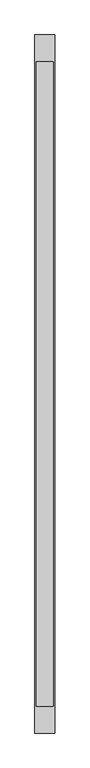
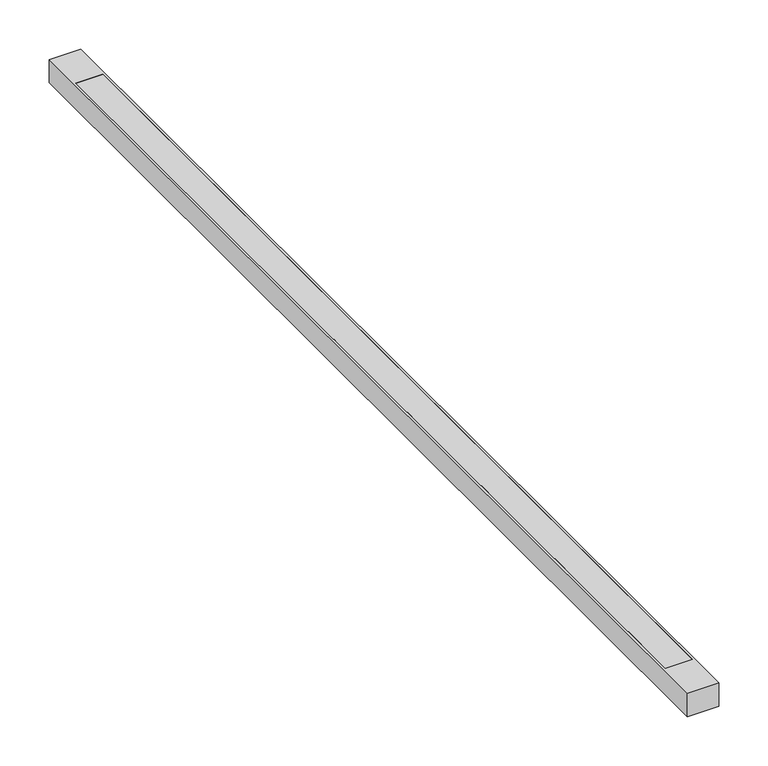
"""IFC4 building model written with IfcOpenShell, lengths in millimetres: light fixture geometry, Zumtobel SUI TID : SUI TID L1300 2200-840 300MA."""

import ifcopenshell
import ifcopenshell.guid

model = None  # the IFC model being written
_history = None  # IfcOwnerHistory: only IFC2X3 demands one
_inside = {}  # id of a spatial element -> (the spatial element, [elements in it])
_under = {}  # id of a project, library or spatial element -> (it, [spatial elements below it])
_declared = {}  # id of a project -> (the project, [libraries it declares])
_typed = {}  # id of a type object -> (the type object, [elements of that type])
_made_of = {}  # id of a material, layer set ... -> (it, [elements and type objects made of it])


def new_model(schema):
    """Start an empty IFC model of exactly this schema.

    Asked for "IFC4X3", IfcOpenShell would pick the latest addendum, in which some entities
    have other attributes; the version numbers below select the first issue.
    IFC2X3 requires an IfcOwnerHistory on every rooted entity: one is made here for all.
    """
    global model, _history
    if schema == "IFC4X3":
        model = ifcopenshell.file(schema_version=(4, 3, 0, 0))
    else:
        model = ifcopenshell.file(schema=schema)
    _inside.clear()
    _under.clear()
    _declared.clear()
    _typed.clear()
    _made_of.clear()
    _history = None
    if model.schema == "IFC2X3":
        org = make("IfcOrganization", Name="unknown")
        user = make(
            "IfcPersonAndOrganization",
            ThePerson=make("IfcPerson", FamilyName="unknown"),
            TheOrganization=org,
        )
        app = make(
            "IfcApplication",
            ApplicationDeveloper=org,
            Version="unknown",
            ApplicationFullName="unknown",
            ApplicationIdentifier="unknown",
        )
        _history = make(
            "IfcOwnerHistory",
            OwningUser=user,
            OwningApplication=app,
            ChangeAction="ADDED",
            CreationDate=0,
        )
    return model


def make(cls, **values):
    """One entity of the class cls with the attributes given. An attribute that is None is left unset."""
    return model.create_entity(
        cls, **{name: value for name, value in values.items() if value is not None}
    )


def rooted(cls, **values):
    """An entity with a GlobalId (a new one), such as an element, a storey or a relation."""
    return make(cls, GlobalId=ifcopenshell.guid.new(), OwnerHistory=_history, **values)


def si_unit(unit_type, name, prefix=None):
    """IfcSIUnit, for example si_unit("LENGTHUNIT", "METRE", prefix="MILLI")."""
    return make("IfcSIUnit", UnitType=unit_type, Prefix=prefix, Name=name)


def assignment(units):
    """IfcUnitAssignment: the units of a project."""
    return None if units is None else make("IfcUnitAssignment", Units=units)


def point(xyz):
    """IfcCartesianPoint."""
    return None if xyz is None else make("IfcCartesianPoint", Coordinates=xyz)


def direction(xyz):
    """IfcDirection."""
    return None if xyz is None else make("IfcDirection", DirectionRatios=xyz)


def frame(location, z_axis=None, x_axis=None):
    """IfcAxis2Placement3D, a coordinate frame: its origin and axes. An axis left out is left unset."""
    return make(
        "IfcAxis2Placement3D",
        Location=point(location),
        Axis=direction(z_axis),
        RefDirection=direction(x_axis),
    )


def origin():
    """The frame at (0, 0, 0) with its axes left unset."""
    return frame((0.0, 0.0, 0.0))


def place(relative_to, where):
    """IfcLocalPlacement: puts the frame where relative to a parent placement (None: the world)."""
    return make(
        "IfcLocalPlacement", PlacementRelTo=relative_to, RelativePlacement=where
    )


def context(
    kind, dimensions, precision=None, world=None, true_north=None, identifier=None
):
    """IfcGeometricRepresentationContext, for example the 3D "Model" context."""
    return make(
        "IfcGeometricRepresentationContext",
        ContextIdentifier=identifier,
        ContextType=kind,
        CoordinateSpaceDimension=dimensions,
        Precision=precision,
        WorldCoordinateSystem=world,
        TrueNorth=true_north,
    )


def project(units=None, contexts=None):
    """IfcProject with its units and contexts."""
    return rooted(
        "IfcProject",
        Name="project",
        RepresentationContexts=contexts,
        UnitsInContext=assignment(units),
    )


def spatial(cls, under=None, at=None, **own):
    """A site, building, storey or space (cls), placed at a placement, below another one or the project."""
    s = rooted(cls, ObjectPlacement=at, **own)
    if under is not None:
        _under.setdefault(under.id(), (under, []))[1].append(s)
    return s


def polyline(points):
    """IfcPolyline through the points."""
    return make("IfcPolyline", Points=[point(p) for p in points])


def outline(outer, holes=None, kind="AREA"):
    """IfcArbitraryClosedProfileDef: a profile drawn as a closed curve; with holes, ...WithVoids."""
    if holes is None:
        return make("IfcArbitraryClosedProfileDef", ProfileType=kind, OuterCurve=outer)
    return make(
        "IfcArbitraryProfileDefWithVoids",
        ProfileType=kind,
        OuterCurve=outer,
        InnerCurves=holes,
    )


def extrude(swept, where, along, depth):
    """IfcExtrudedAreaSolid: the profile swept, set in the frame where, extruded along a direction by depth."""
    return make(
        "IfcExtrudedAreaSolid",
        SweptArea=swept,
        Position=where,
        ExtrudedDirection=direction(along),
        Depth=depth,
    )


def faces_of(points, faces, orient=None, outer=None):
    """IfcFace entities. A face is a list of loops; a loop is a list of indices into points, from 0.

    orient and outer hold one flag for each loop. By default every Orientation is true, the
    first loop of a face is its IfcFaceOuterBound and the others are IfcFaceBound.
    """
    made = []
    for i, loops in enumerate(faces):
        bounds = []
        for j, loop in enumerate(loops):
            is_outer = j == 0 if outer is None else outer[i][j]
            bounds.append(
                make(
                    "IfcFaceOuterBound" if is_outer else "IfcFaceBound",
                    Bound=make("IfcPolyLoop", Polygon=[points[k] for k in loop]),
                    Orientation=True if orient is None else orient[i][j],
                )
            )
        made.append(make("IfcFace", Bounds=bounds))
    return made


def faceted_brep(points, faces, orient=None, outer=None, voids=None):
    """IfcFacetedBrep: a solid bounded by flat faces; with voids (closed shells), ...WithVoids."""
    shared = [point(p) for p in points]
    hull = make("IfcClosedShell", CfsFaces=faces_of(shared, faces, orient, outer))
    if voids is None:
        return make("IfcFacetedBrep", Outer=hull)
    return make(
        "IfcFacetedBrepWithVoids",
        Outer=hull,
        Voids=[
            make(cls, CfsFaces=faces_of(shared, fs, o, b)) for cls, fs, o, b in voids
        ],
    )


def shape(context_of_items, identifier, shape_type, items):
    """IfcShapeRepresentation: the items that make up one representation, for example the "Body"."""
    return make(
        "IfcShapeRepresentation",
        ContextOfItems=context_of_items,
        RepresentationIdentifier=identifier,
        RepresentationType=shape_type,
        Items=items,
    )


def source(mapping_origin, context_of_items, identifier, shape_type, items):
    """IfcRepresentationMap: a shape defined once, which mapped items show again and again."""
    return make(
        "IfcRepresentationMap",
        MappingOrigin=mapping_origin,
        MappedRepresentation=shape(context_of_items, identifier, shape_type, items),
    )


def transform(
    local_origin,
    x_axis=None,
    y_axis=None,
    z_axis=None,
    scale=None,
    scale2=None,
    scale3=None,
    uniform=True,
):
    """IfcCartesianTransformationOperator3D, or its non-uniform kind. x_axis, y_axis, z_axis: its Axis1, 2, 3."""
    if uniform:
        return make(
            "IfcCartesianTransformationOperator3D",
            Axis1=direction(x_axis),
            Axis2=direction(y_axis),
            LocalOrigin=point(local_origin),
            Scale=scale,
            Axis3=direction(z_axis),
        )
    return make(
        "IfcCartesianTransformationOperator3DnonUniform",
        Axis1=direction(x_axis),
        Axis2=direction(y_axis),
        LocalOrigin=point(local_origin),
        Scale=scale,
        Axis3=direction(z_axis),
        Scale2=scale2,
        Scale3=scale3,
    )


def mapped(mapping_source, mapping_target):
    """IfcMappedItem: shows the shape of a source again, moved by a transform."""
    return make(
        "IfcMappedItem", MappingSource=mapping_source, MappingTarget=mapping_target
    )


def made_of(thing, what):
    """Note that an element or type object is made of a material, layer set ...; save() writes the relation."""
    if what is not None:
        _made_of.setdefault(what.id(), (what, []))[1].append(thing)
    return thing


def element(
    cls,
    number,
    at=None,
    inside=None,
    cuts=None,
    type_object=None,
    material=None,
    context=None,
    identifier="Body",
    shape_type=None,
    held_by="IfcProductDefinitionShape",
    body=None,
    shapes=None,
    **own,
):
    """One element of the class cls, such as IfcWall. Its Tag is "e" and its number.

    at: its placement. inside: the storey or other place that contains it. cuts: it is an
    opening in that element (IfcRelVoidsElement). A single representation is given by context,
    identifier, shape_type and body (its items); several are given by shapes. held_by: the class
    of the entity that holds the representations. save() writes the other relations.
    """
    e = rooted(cls, Tag="e%d" % number, ObjectPlacement=at, **own)
    if body is not None:
        shapes = [shape(context, identifier, shape_type, body)]
    if shapes is not None:
        e.Representation = make(held_by, Representations=shapes)
    if inside is not None:
        _inside.setdefault(inside.id(), (inside, []))[1].append(e)
    if cuts is not None:
        rooted(
            "IfcRelVoidsElement", RelatingBuildingElement=cuts, RelatedOpeningElement=e
        )
    if type_object is not None:
        _typed.setdefault(type_object.id(), (type_object, []))[1].append(e)
    return made_of(e, material)


def aggregate(whole, parts):
    """IfcRelAggregates: a whole, such as a stair, and the parts it consists of."""
    return rooted("IfcRelAggregates", RelatingObject=whole, RelatedObjects=parts)


def save(model, path):
    """Write the relations noted so far, then the file.

    IfcRelAggregates (storeys below a building ...), IfcRelContainedInSpatialStructure (elements
    in a storey), IfcRelDefinesByType, IfcRelAssociatesMaterial and IfcRelDeclares: one each for
    every whole, place, type object, material and project.
    """
    for whole, parts in _under.values():
        aggregate(whole, parts)
    for where, things in _inside.values():
        rooted(
            "IfcRelContainedInSpatialStructure",
            RelatedElements=things,
            RelatingStructure=where,
        )
    for kind, things in _typed.values():
        rooted("IfcRelDefinesByType", RelatedObjects=things, RelatingType=kind)
    for what, things in _made_of.values():
        rooted("IfcRelAssociatesMaterial", RelatedObjects=things, RelatingMaterial=what)
    for by, libraries in _declared.values():
        rooted("IfcRelDeclares", RelatingContext=by, RelatedDefinitions=libraries)
    model.write(path)


def light_fixture_b9eeb79a(model_context):
    return source(origin(), model_context, "Body", "SolidModel", [
        faceted_brep([(418.0000048, 650.0, 29.0), (381.0000048, 650.0, 29.0), (381.0000048, -650.0, 29.0), (418.0000048, -650.0, 29.0), (383.5000048, 600.0, 29.0), (415.5000048, 600.0, 29.0), (415.5000048, -600.0, 29.0), (383.5000048, -600.0, 29.0), (418.0000048, 650.0, 0.0), (381.0000048, 650.0, 0.0), (381.0000048, -650.0, 0.0), (418.0000048, -650.0, 0.0), (383.5000048, 600.0, 19.0), (415.5000048, 600.0, 19.0), (415.5000048, -600.0, 19.0), (383.5000048, -600.0, 19.0)], [[[0, 1, 2, 3], [4, 5, 6, 7]], [[1, 0, 8, 9]], [[2, 1, 9, 10]], [[3, 2, 10, 11]], [[8, 0, 3, 11]], [[5, 4, 12, 13]], [[6, 5, 13, 14]], [[7, 6, 14, 15]], [[4, 7, 15, 12]], [[13, 12, 15, 14]], [[8, 11, 10, 9]]]),
        extrude(outline(polyline([(415.5000048, 600.0), (415.5000048, -600.0), (383.5000048, -600.0), (383.5000048, 600.0), (415.5000048, 600.0)])), frame((0.0, 0.0, 19.0), z_axis=(0.0, 0.0, 1.0), x_axis=(1.0, 0.0, 0.0)), (0.0, 0.0, 1.0), 10.0),
    ])


if __name__ == "__main__":
    model = new_model("IFC4")
    model_context = context("Model", 3, world=origin())
    ifc_project = project(units=[si_unit("LENGTHUNIT", "METRE", prefix="MILLI")], contexts=[model_context])
    site = spatial("IfcSite", under=ifc_project)
    building = spatial("IfcBuilding", under=site)
    placement = place(None, origin())
    light_fixture_shape = light_fixture_b9eeb79a(model_context)
    element("IfcLightFixture", 1, ObjectType="Zumtobel SUI TID : SUI TID L1300 2200-840 300MA", at=placement, inside=building, context=model_context, shape_type="MappedRepresentation", body=[
        mapped(light_fixture_shape, transform((0.0, 0.0, 0.0), x_axis=(1.0, 0.0, 0.0), y_axis=(0.0, 1.0, 0.0), z_axis=(0.0, 0.0, 1.0))),
    ])
    save(model, "model.ifc")
